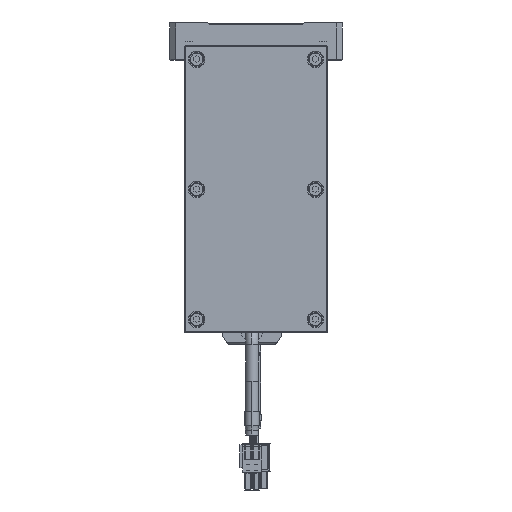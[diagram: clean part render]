
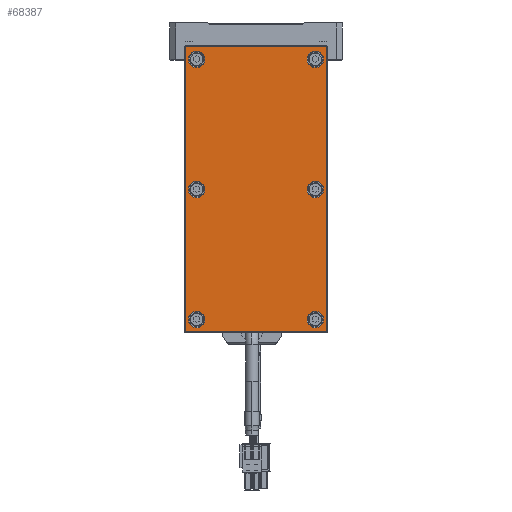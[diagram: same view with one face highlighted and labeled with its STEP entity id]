
A CAD part, front view. The second image highlights one B-rep face of the part: STEP entity #68387.
In plain terms, the highlighted planar face has unit normal (0, -1, 0).
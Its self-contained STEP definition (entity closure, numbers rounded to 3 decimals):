
#67004=CARTESIAN_POINT('',(74.,-6.,-36.5));
#67005=DIRECTION('',(0.,-1.,0.));
#67006=DIRECTION('',(0.,0.,-1.));
#67007=AXIS2_PLACEMENT_3D('',#67004,#67005,#67006);
#67009=DIRECTION('',(1.,0.,0.));
#67010=VECTOR('',#67009,148.);
#67011=CARTESIAN_POINT('',(-74.,-6.,
-37.));
#67012=LINE('',#67011,#67010);
#67013=CARTESIAN_POINT('',(-74.,-6.,-36.5));
#67014=DIRECTION('',(0.,-1.,0.));
#67015=DIRECTION('',(-1.,0.,0.));
#67016=AXIS2_PLACEMENT_3D('',#67013,#67014,#67015);
#67018=DIRECTION('',(0.,0.,-1.));
#67019=VECTOR('',#67018,73.);
#67020=CARTESIAN_POINT('',(-74.5,-6.,
36.5));
#67021=LINE('',#67020,#67019);
#67022=CARTESIAN_POINT('',(-74.,-6.,36.5));
#67023=DIRECTION('',(0.,-1.,0.));
#67024=DIRECTION('',(0.,0.,1.));
#67025=AXIS2_PLACEMENT_3D('',#67022,#67023,#67024);
#67027=DIRECTION('',(-1.,0.,0.));
#67028=VECTOR('',#67027,148.);
#67029=CARTESIAN_POINT('',(74.,-6.,
37.));
#67030=LINE('',#67029,#67028);
#67031=CARTESIAN_POINT('',(74.,-6.,36.5));
#67032=DIRECTION('',(0.,-1.,0.));
#67033=DIRECTION('',(1.,0.,0.));
#67034=AXIS2_PLACEMENT_3D('',#67031,#67032,#67033);
#67036=DIRECTION('',(0.,0.,1.));
#67037=VECTOR('',#67036,73.);
#67038=CARTESIAN_POINT('',(74.5,-6.,
-36.5));
#67039=LINE('',#67038,#67037);
#67040=CARTESIAN_POINT('',(-68.,-6.,-31.));
#67041=DIRECTION('',(0.,1.,0.));
#67042=DIRECTION('',(1.,0.,0.));
#67043=AXIS2_PLACEMENT_3D('',#67040,#67041,#67042);
#67045=CARTESIAN_POINT('',(-68.,-6.,-31.));
#67046=DIRECTION('',(0.,1.,0.));
#67047=DIRECTION('',(-1.,0.,0.));
#67048=AXIS2_PLACEMENT_3D('',#67045,#67046,#67047);
#67050=CARTESIAN_POINT('',(0.,-6.,-31.));
#67051=DIRECTION('',(0.,1.,0.));
#67052=DIRECTION('',(1.,0.,0.));
#67053=AXIS2_PLACEMENT_3D('',#67050,#67051,#67052);
#67055=CARTESIAN_POINT('',(0.,-6.,-31.));
#67056=DIRECTION('',(0.,1.,0.));
#67057=DIRECTION('',(-1.,0.,0.));
#67058=AXIS2_PLACEMENT_3D('',#67055,#67056,#67057);
#67060=CARTESIAN_POINT('',(68.,-6.,-31.));
#67061=DIRECTION('',(0.,1.,0.));
#67062=DIRECTION('',(1.,0.,0.));
#67063=AXIS2_PLACEMENT_3D('',#67060,#67061,#67062);
#67065=CARTESIAN_POINT('',(68.,-6.,-31.));
#67066=DIRECTION('',(0.,1.,0.));
#67067=DIRECTION('',(-1.,0.,0.));
#67068=AXIS2_PLACEMENT_3D('',#67065,#67066,#67067);
#67070=CARTESIAN_POINT('',(68.,-6.,31.));
#67071=DIRECTION('',(0.,1.,0.));
#67072=DIRECTION('',(1.,0.,0.));
#67073=AXIS2_PLACEMENT_3D('',#67070,#67071,#67072);
#67075=CARTESIAN_POINT('',(68.,-6.,31.));
#67076=DIRECTION('',(0.,1.,0.));
#67077=DIRECTION('',(-1.,0.,0.));
#67078=AXIS2_PLACEMENT_3D('',#67075,#67076,#67077);
#67080=CARTESIAN_POINT('',(0.,-6.,31.));
#67081=DIRECTION('',(0.,1.,0.));
#67082=DIRECTION('',(1.,0.,0.));
#67083=AXIS2_PLACEMENT_3D('',#67080,#67081,#67082);
#67085=CARTESIAN_POINT('',(0.,-6.,31.));
#67086=DIRECTION('',(0.,1.,0.));
#67087=DIRECTION('',(-1.,0.,0.));
#67088=AXIS2_PLACEMENT_3D('',#67085,#67086,#67087);
#67090=CARTESIAN_POINT('',(-68.,-6.,31.));
#67091=DIRECTION('',(0.,1.,0.));
#67092=DIRECTION('',(1.,0.,0.));
#67093=AXIS2_PLACEMENT_3D('',#67090,#67091,#67092);
#67095=CARTESIAN_POINT('',(-68.,-6.,31.));
#67096=DIRECTION('',(0.,1.,0.));
#67097=DIRECTION('',(-1.,0.,0.));
#67098=AXIS2_PLACEMENT_3D('',#67095,#67096,#67097);
#68128=CARTESIAN_POINT('',(74.,-6.,-37.));
#68129=CARTESIAN_POINT('',(74.5,-6.,-36.5));
#68130=VERTEX_POINT('',#68128);
#68131=VERTEX_POINT('',#68129);
#68136=CARTESIAN_POINT('',(74.5,-6.,
36.5));
#68137=VERTEX_POINT('',#68136);
#68140=CARTESIAN_POINT('',(74.,-6.,37.));
#68141=VERTEX_POINT('',#68140);
#68144=CARTESIAN_POINT('',(-74.,-6.,
37.));
#68145=VERTEX_POINT('',#68144);
#68148=CARTESIAN_POINT('',(-74.5,-6.,36.5));
#68149=VERTEX_POINT('',#68148);
#68152=CARTESIAN_POINT('',(-74.5,-6.,
-36.5));
#68153=VERTEX_POINT('',#68152);
#68156=CARTESIAN_POINT('',(-74.,-6.,-37.));
#68157=VERTEX_POINT('',#68156);
#68184=CARTESIAN_POINT('',(-63.7,-6.,-31.));
#68185=CARTESIAN_POINT('',(-72.3,-6.,-31.));
#68186=VERTEX_POINT('',#68184);
#68187=VERTEX_POINT('',#68185);
#68200=CARTESIAN_POINT('',(4.3,-6.,-31.));
#68201=CARTESIAN_POINT('',(-4.3,-6.,-31.));
#68202=VERTEX_POINT('',#68200);
#68203=VERTEX_POINT('',#68201);
#68224=CARTESIAN_POINT('',(72.3,-6.,-31.));
#68225=CARTESIAN_POINT('',(63.7,-6.,-31.));
#68226=VERTEX_POINT('',#68224);
#68227=VERTEX_POINT('',#68225);
#68240=CARTESIAN_POINT('',(72.3,-6.,31.));
#68241=CARTESIAN_POINT('',(63.7,-6.,31.));
#68242=VERTEX_POINT('',#68240);
#68243=VERTEX_POINT('',#68241);
#68248=CARTESIAN_POINT('',(4.3,-6.,31.));
#68249=CARTESIAN_POINT('',(-4.3,-6.,31.));
#68250=VERTEX_POINT('',#68248);
#68251=VERTEX_POINT('',#68249);
#68272=CARTESIAN_POINT('',(-63.7,-6.,31.));
#68273=CARTESIAN_POINT('',(-72.3,-6.,31.));
#68274=VERTEX_POINT('',#68272);
#68275=VERTEX_POINT('',#68273);
#68328=CARTESIAN_POINT('',(0.,-6.,0.));
#68329=DIRECTION('',(0.,1.,0.));
#68330=DIRECTION('',(1.,0.,0.));
#68331=AXIS2_PLACEMENT_3D('',#68328,#68329,#68330);
#68332=PLANE('',#68331);
#68334=ORIENTED_EDGE('',*,*,#68333,.F.);
#68336=ORIENTED_EDGE('',*,*,#68335,.F.);
#68338=ORIENTED_EDGE('',*,*,#68337,.F.);
#68340=ORIENTED_EDGE('',*,*,#68339,.F.);
#68342=ORIENTED_EDGE('',*,*,#68341,.F.);
#68344=ORIENTED_EDGE('',*,*,#68343,.F.);
#68346=ORIENTED_EDGE('',*,*,#68345,.F.);
#68348=ORIENTED_EDGE('',*,*,#68347,.F.);
#68349=EDGE_LOOP('',(#68334,#68336,#68338,#68340,#68342,#68344,#68346,#68348));
#68350=FACE_OUTER_BOUND('',#68349,.F.);
#68352=ORIENTED_EDGE('',*,*,#68351,.F.);
#68354=ORIENTED_EDGE('',*,*,#68353,.F.);
#68355=EDGE_LOOP('',(#68352,#68354));
#68356=FACE_BOUND('',#68355,.F.);
#68358=ORIENTED_EDGE('',*,*,#68357,.F.);
#68360=ORIENTED_EDGE('',*,*,#68359,.F.);
#68361=EDGE_LOOP('',(#68358,#68360));
#68362=FACE_BOUND('',#68361,.F.);
#68364=ORIENTED_EDGE('',*,*,#68363,.F.);
#68366=ORIENTED_EDGE('',*,*,#68365,.F.);
#68367=EDGE_LOOP('',(#68364,#68366));
#68368=FACE_BOUND('',#68367,.F.);
#68370=ORIENTED_EDGE('',*,*,#68369,.F.);
#68372=ORIENTED_EDGE('',*,*,#68371,.F.);
#68373=EDGE_LOOP('',(#68370,#68372));
#68374=FACE_BOUND('',#68373,.F.);
#68376=ORIENTED_EDGE('',*,*,#68375,.F.);
#68378=ORIENTED_EDGE('',*,*,#68377,.F.);
#68379=EDGE_LOOP('',(#68376,#68378));
#68380=FACE_BOUND('',#68379,.F.);
#68382=ORIENTED_EDGE('',*,*,#68381,.F.);
#68384=ORIENTED_EDGE('',*,*,#68383,.F.);
#68385=EDGE_LOOP('',(#68382,#68384));
#68386=FACE_BOUND('',#68385,.F.);
#68387=ADVANCED_FACE('',(#68350,#68356,#68362,#68368,#68374,#68380,#68386),
#68332,.F.);
#67008=CIRCLE('',#67007,0.5);
#67017=CIRCLE('',#67016,0.5);
#67026=CIRCLE('',#67025,0.5);
#67035=CIRCLE('',#67034,0.5);
#67044=CIRCLE('',#67043,4.3);
#67049=CIRCLE('',#67048,4.3);
#67054=CIRCLE('',#67053,4.3);
#67059=CIRCLE('',#67058,4.3);
#67064=CIRCLE('',#67063,4.3);
#67069=CIRCLE('',#67068,4.3);
#67074=CIRCLE('',#67073,4.3);
#67079=CIRCLE('',#67078,4.3);
#67084=CIRCLE('',#67083,4.3);
#67089=CIRCLE('',#67088,4.3);
#67094=CIRCLE('',#67093,4.3);
#67099=CIRCLE('',#67098,4.3);
#68333=EDGE_CURVE('',#68130,#68131,#67008,.T.);
#68335=EDGE_CURVE('',#68157,#68130,#67012,.T.);
#68337=EDGE_CURVE('',#68153,#68157,#67017,.T.);
#68339=EDGE_CURVE('',#68149,#68153,#67021,.T.);
#68341=EDGE_CURVE('',#68145,#68149,#67026,.T.);
#68343=EDGE_CURVE('',#68141,#68145,#67030,.T.);
#68345=EDGE_CURVE('',#68137,#68141,#67035,.T.);
#68347=EDGE_CURVE('',#68131,#68137,#67039,.T.);
#68351=EDGE_CURVE('',#68186,#68187,#67044,.T.);
#68353=EDGE_CURVE('',#68187,#68186,#67049,.T.);
#68357=EDGE_CURVE('',#68202,#68203,#67054,.T.);
#68359=EDGE_CURVE('',#68203,#68202,#67059,.T.);
#68363=EDGE_CURVE('',#68226,#68227,#67064,.T.);
#68365=EDGE_CURVE('',#68227,#68226,#67069,.T.);
#68369=EDGE_CURVE('',#68242,#68243,#67074,.T.);
#68371=EDGE_CURVE('',#68243,#68242,#67079,.T.);
#68375=EDGE_CURVE('',#68250,#68251,#67084,.T.);
#68377=EDGE_CURVE('',#68251,#68250,#67089,.T.);
#68381=EDGE_CURVE('',#68274,#68275,#67094,.T.);
#68383=EDGE_CURVE('',#68275,#68274,#67099,.T.);
